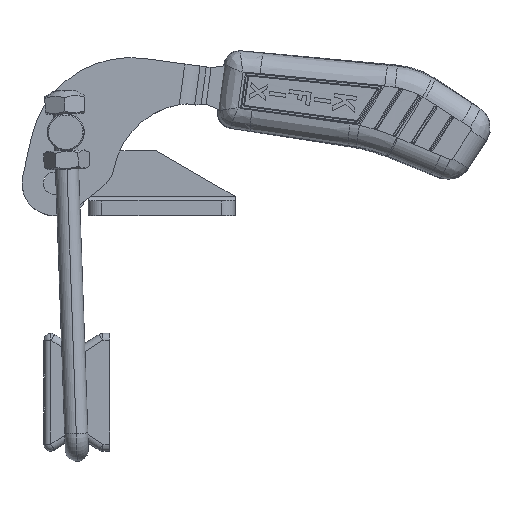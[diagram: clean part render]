
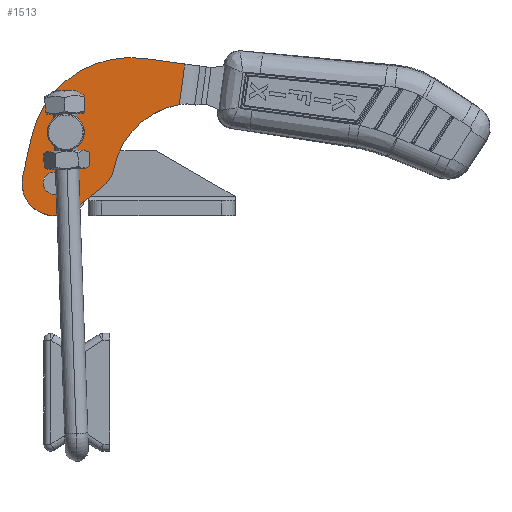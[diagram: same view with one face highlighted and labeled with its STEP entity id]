
A CAD part, top view. The second image highlights one B-rep face of the part: STEP entity #1513.
In plain terms, the highlighted planar face has unit normal (0, 0, 1).
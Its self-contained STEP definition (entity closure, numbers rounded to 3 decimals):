
#241 = DIRECTION ( 'NONE',  ( 0., 0., 1. ) ) ;
#571 = VERTEX_POINT ( 'NONE', #24090 ) ;
#670 = VERTEX_POINT ( 'NONE', #4125 ) ;
#984 = EDGE_CURVE ( 'NONE', #21628, #11109, #13223, .T. ) ;
#1075 = CIRCLE ( 'NONE', #2396, 14. ) ;
#1387 = VERTEX_POINT ( 'NONE', #19041 ) ;
#1513 = ADVANCED_FACE ( 'NONE', ( #6990, #17559, #12263 ), #13658, .F. ) ;
#1567 = VERTEX_POINT ( 'NONE', #19559 ) ;
#1830 = EDGE_CURVE ( 'NONE', #1567, #2288, #7920, .T. ) ;
#1952 = DIRECTION ( 'NONE',  ( 0., 0., 1. ) ) ;
#2288 = VERTEX_POINT ( 'NONE', #22959 ) ;
#2396 = AXIS2_PLACEMENT_3D ( 'NONE', #6559, #20417, #8544 ) ;
#2574 = VECTOR ( 'NONE', #2606, 1000. ) ;
#2606 = DIRECTION ( 'NONE',  ( -0.997, -0.083, 0. ) ) ;
#2627 = EDGE_CURVE ( 'NONE', #21330, #11901, #19058, .T. ) ;
#4125 = CARTESIAN_POINT ( 'NONE',  ( 23.678, 11.825, 6.35 ) ) ;
#4624 = AXIS2_PLACEMENT_3D ( 'NONE', #10049, #23924, #12024 ) ;
#4678 = EDGE_CURVE ( 'NONE', #21330, #571, #10918, .T. ) ;
#4684 = DIRECTION ( 'NONE',  ( 0., -1., 0. ) ) ;
#4857 = VERTEX_POINT ( 'NONE', #18526 ) ;
#4864 = DIRECTION ( 'NONE',  ( 0., 0., 1. ) ) ;
#5810 = ORIENTED_EDGE ( 'NONE', *, *, #1830, .T. ) ;
#5901 = ORIENTED_EDGE ( 'NONE', *, *, #22731, .T. ) ;
#5911 = CIRCLE ( 'NONE', #19146, 4.8 ) ;
#6559 = CARTESIAN_POINT ( 'NONE',  ( 9.681, 11.538, 6.35 ) ) ;
#6780 = EDGE_LOOP ( 'NONE', ( #15027, #5901, #24867, #5810, #24012, #10965, #21719, #16832, #23824 ) ) ;
#6990 = FACE_BOUND ( 'NONE', #23245, .T. ) ;
#6997 = DIRECTION ( 'NONE',  ( 0.643, 0.766, 0. ) ) ;
#7352 = VERTEX_POINT ( 'NONE', #11943 ) ;
#7679 = CARTESIAN_POINT ( 'NONE',  ( 58.671, 12.543, 6.35 ) ) ;
#7888 = CIRCLE ( 'NONE', #17737, 35. ) ;
#7920 = CIRCLE ( 'NONE', #13874, 14. ) ;
#8447 = AXIS2_PLACEMENT_3D ( 'NONE', #16760, #4864, #18726 ) ;
#8492 = LINE ( 'NONE', #16582, #9766 ) ;
#8544 = DIRECTION ( 'NONE',  ( 1., 0., 0. ) ) ;
#9379 = CARTESIAN_POINT ( 'NONE',  ( 0., 0., 6.35 ) ) ;
#9389 = DIRECTION ( 'NONE',  ( 0., 0., -1. ) ) ;
#9643 = DIRECTION ( 'NONE',  ( 0., 0., 1. ) ) ;
#9741 = CARTESIAN_POINT ( 'NONE',  ( 43.802, 62.483, 6.35 ) ) ;
#9766 = VECTOR ( 'NONE', #4684, 1000. ) ;
#9775 = DIRECTION ( 'NONE',  ( 0., 0., -1. ) ) ;
#10049 = CARTESIAN_POINT ( 'NONE',  ( 0., 0., 6.35 ) ) ;
#10061 = ORIENTED_EDGE ( 'NONE', *, *, #11589, .F. ) ;
#10159 = DIRECTION ( 'NONE',  ( 0.083, -0.997, 0. ) ) ;
#10918 = LINE ( 'NONE', #22034, #22104 ) ;
#10965 = ORIENTED_EDGE ( 'NONE', *, *, #15341, .T. ) ;
#11109 = VERTEX_POINT ( 'NONE', #23979 ) ;
#11374 = DIRECTION ( 'NONE',  ( 1., 0., 0. ) ) ;
#11376 = AXIS2_PLACEMENT_3D ( 'NONE', #13861, #1952, #15874 ) ;
#11465 = DIRECTION ( 'NONE',  ( 0., 0., 1. ) ) ;
#11479 = EDGE_CURVE ( 'NONE', #4857, #1387, #5911, .T. ) ;
#11589 = EDGE_CURVE ( 'NONE', #11109, #21628, #20456, .T. ) ;
#11901 = VERTEX_POINT ( 'NONE', #12731 ) ;
#11943 = CARTESIAN_POINT ( 'NONE',  ( -14., 17.185, 6.35 ) ) ;
#12024 = DIRECTION ( 'NONE',  ( 1., 0., 0. ) ) ;
#12144 = CARTESIAN_POINT ( 'NONE',  ( 30., 17.185, 6.35 ) ) ;
#12263 = FACE_OUTER_BOUND ( 'NONE', #6780, .T. ) ;
#12731 = CARTESIAN_POINT ( 'NONE',  ( 26.356, 61.034, 6.35 ) ) ;
#13223 = CIRCLE ( 'NONE', #11376, 8. ) ;
#13658 = PLANE ( 'NONE',  #15715 ) ;
#13854 = VECTOR ( 'NONE', #6997, 1000. ) ;
#13861 = CARTESIAN_POINT ( 'NONE',  ( 0., 22.55, 6.35 ) ) ;
#13874 = AXIS2_PLACEMENT_3D ( 'NONE', #23368, #11465, #25347 ) ;
#14156 = DIRECTION ( 'NONE',  ( 1., 0., 0. ) ) ;
#14435 = CARTESIAN_POINT ( 'NONE',  ( 26.356, 61.034, 6.35 ) ) ;
#15027 = ORIENTED_EDGE ( 'NONE', *, *, #2627, .T. ) ;
#15341 = EDGE_CURVE ( 'NONE', #21363, #23547, #1075, .T. ) ;
#15715 = AXIS2_PLACEMENT_3D ( 'NONE', #7679, #9775, #23656 ) ;
#15874 = DIRECTION ( 'NONE',  ( 1., 0., 0. ) ) ;
#16349 = AXIS2_PLACEMENT_3D ( 'NONE', #12144, #241, #14156 ) ;
#16380 = ORIENTED_EDGE ( 'NONE', *, *, #18552, .F. ) ;
#16582 = CARTESIAN_POINT ( 'NONE',  ( -14., 17.185, 6.35 ) ) ;
#16760 = CARTESIAN_POINT ( 'NONE',  ( 9.681, 11.538, 6.35 ) ) ;
#16832 = ORIENTED_EDGE ( 'NONE', *, *, #17158, .T. ) ;
#17158 = EDGE_CURVE ( 'NONE', #670, #571, #7888, .T. ) ;
#17559 = FACE_BOUND ( 'NONE', #23867, .T. ) ;
#17737 = AXIS2_PLACEMENT_3D ( 'NONE', #21263, #9389, #23276 ) ;
#18526 = CARTESIAN_POINT ( 'NONE',  ( -4.8, 0., 6.35 ) ) ;
#18552 = EDGE_CURVE ( 'NONE', #1387, #4857, #24307, .T. ) ;
#18726 = DIRECTION ( 'NONE',  ( 1., 0., 0. ) ) ;
#18862 = CARTESIAN_POINT ( 'NONE',  ( 10.725, -8.999, 6.35 ) ) ;
#19041 = CARTESIAN_POINT ( 'NONE',  ( 4.8, 0., 6.35 ) ) ;
#19058 = LINE ( 'NONE', #14435, #2574 ) ;
#19146 = AXIS2_PLACEMENT_3D ( 'NONE', #9379, #23265, #11374 ) ;
#19410 = EDGE_CURVE ( 'NONE', #23547, #670, #22275, .T. ) ;
#19559 = CARTESIAN_POINT ( 'NONE',  ( -14., 0., 6.35 ) ) ;
#19702 = CARTESIAN_POINT ( 'NONE',  ( 20.406, 2.539, 6.35 ) ) ;
#20417 = DIRECTION ( 'NONE',  ( 0., 0., 1. ) ) ;
#20456 = CIRCLE ( 'NONE', #21824, 8. ) ;
#20505 = EDGE_CURVE ( 'NONE', #2288, #21363, #24426, .T. ) ;
#20909 = CIRCLE ( 'NONE', #16349, 44. ) ;
#21263 = CARTESIAN_POINT ( 'NONE',  ( 58.671, 12.543, 6.35 ) ) ;
#21330 = VERTEX_POINT ( 'NONE', #9741 ) ;
#21363 = VERTEX_POINT ( 'NONE', #19702 ) ;
#21515 = CARTESIAN_POINT ( 'NONE',  ( 0., 22.55, 6.35 ) ) ;
#21628 = VERTEX_POINT ( 'NONE', #24651 ) ;
#21662 = CARTESIAN_POINT ( 'NONE',  ( 23.681, 11.538, 6.35 ) ) ;
#21719 = ORIENTED_EDGE ( 'NONE', *, *, #19410, .T. ) ;
#21824 = AXIS2_PLACEMENT_3D ( 'NONE', #21515, #9643, #23523 ) ;
#22034 = CARTESIAN_POINT ( 'NONE',  ( 48.026, 11.659, 6.35 ) ) ;
#22104 = VECTOR ( 'NONE', #10159, 1000. ) ;
#22275 = CIRCLE ( 'NONE', #8447, 14. ) ;
#22731 = EDGE_CURVE ( 'NONE', #11901, #7352, #20909, .T. ) ;
#22854 = EDGE_CURVE ( 'NONE', #7352, #1567, #8492, .T. ) ;
#22959 = CARTESIAN_POINT ( 'NONE',  ( 10.725, -8.999, 6.35 ) ) ;
#23245 = EDGE_LOOP ( 'NONE', ( #10061, #23311 ) ) ;
#23265 = DIRECTION ( 'NONE',  ( 0., 0., 1. ) ) ;
#23276 = DIRECTION ( 'NONE',  ( 1., 0., 0. ) ) ;
#23311 = ORIENTED_EDGE ( 'NONE', *, *, #984, .F. ) ;
#23368 = CARTESIAN_POINT ( 'NONE',  ( 0., 0., 6.35 ) ) ;
#23521 = ORIENTED_EDGE ( 'NONE', *, *, #11479, .F. ) ;
#23523 = DIRECTION ( 'NONE',  ( 1., 0., 0. ) ) ;
#23547 = VERTEX_POINT ( 'NONE', #21662 ) ;
#23656 = DIRECTION ( 'NONE',  ( 1., 0., 0. ) ) ;
#23824 = ORIENTED_EDGE ( 'NONE', *, *, #4678, .F. ) ;
#23867 = EDGE_LOOP ( 'NONE', ( #16380, #23521 ) ) ;
#23924 = DIRECTION ( 'NONE',  ( 0., 0., 1. ) ) ;
#23979 = CARTESIAN_POINT ( 'NONE',  ( 8., 22.55, 6.35 ) ) ;
#24012 = ORIENTED_EDGE ( 'NONE', *, *, #20505, .T. ) ;
#24090 = CARTESIAN_POINT ( 'NONE',  ( 45.266, 44.874, 6.35 ) ) ;
#24307 = CIRCLE ( 'NONE', #4624, 4.8 ) ;
#24426 = LINE ( 'NONE', #18862, #13854 ) ;
#24651 = CARTESIAN_POINT ( 'NONE',  ( -8., 22.55, 6.35 ) ) ;
#24867 = ORIENTED_EDGE ( 'NONE', *, *, #22854, .T. ) ;
#25347 = DIRECTION ( 'NONE',  ( 1., 0., 0. ) ) ;
